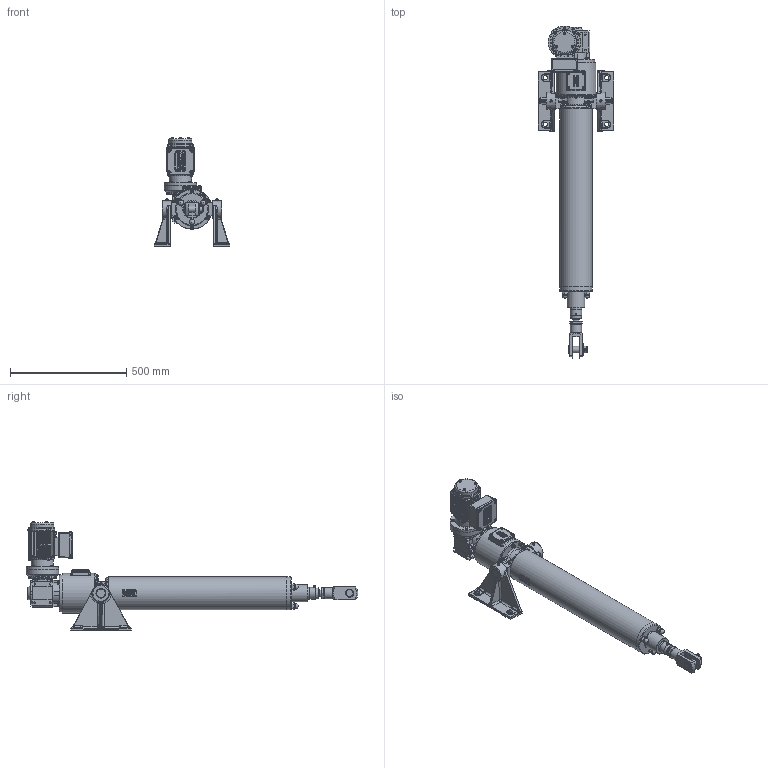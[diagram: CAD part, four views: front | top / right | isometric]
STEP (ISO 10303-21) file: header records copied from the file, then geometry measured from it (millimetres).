
FILE_DESCRIPTION(/* description */ ('Unknown'),/* implementation_level */ '2;1');
FILE_NAME(/* name */ 'T1T6-0600-160-226-8',/* time_stamp */ '2025-07-21T10:24:46+02:00',/* author */ ('Unknown'),/* organization */ ('Unknown'),/* preprocessor_version */ 'ST-DEVELOPER v19.4',/* originating_system */ 'Solid Edge',/* authorisation */ 'Unknown');
FILE_SCHEMA (('AUTOMOTIVE_DESIGN {1 0 10303 214 3 1 1}'));
Length unit declared in the file: millimetre
Products named in the file (15): 160-226-8; 03.01-06_oohne Anschlagkappe; 02.14-06-0600; 02.01-06_kpl; 01.15-06-0600_ohne Anschlagkappe; 01.74-06_ohne Anschlagkappe; SK1SI50-IEC71C140; 01.01-06_kpl_Gabelkopf; 03.65-06_kpl; 04.01-05-7-140; 10.02-04-08; AM6-100-183-3; 63-B5; 10.20-04-11; Klemmenkasten
Assembly tree (14 placements, depth 2):
  160-226-8
    03.01-06_oohne Anschlagkappe
    02.14-06-0600
    02.01-06_kpl
    01.15-06-0600_ohne Anschlagkappe
    01.74-06_ohne Anschlagkappe
    SK1SI50-IEC71C140
    01.01-06_kpl_Gabelkopf
    03.65-06_kpl
    04.01-05-7-140
    10.02-04-08
    AM6-100-183-3
    63-B5
    10.20-04-11
    Klemmenkasten
Bounding box: 325 x 1428 x 468.5 mm (x, y, z)
Volume: 23182611.3 mm3; surface area: 1596878.4 mm2
Topology: 20 solids, 33 shells, 3302 faces, 8677 edges, 5414 vertices
Faces by surface type: plane 1580, cylinder 971, torus 259, bspline 229, cone 212, sphere 51
Full cylindrical faces by diameter (mm): 1 x41, 2 x1, 4 x7, 4.917 x1, 5.3 x4, 5.7 x3, 6 x1, 6.4 x2, 6.647 x1, 7 x6, 8 x13, 8.15 x1, 8.2 x1, 8.4 x6, 8.5 x3, 8.566 x1, 9.15 x3, 10 x7, 11.6 x1, 12 x2, 12.5 x2, 12.8 x1, 13 x2, 16 x7, 17 x6, 18 x5, 20 x1, 22.5 x3, 24 x1, 24.6 x3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
Entity records: 126714 total; most frequent: CARTESIAN_POINT 26281, ORIENTED_EDGE 16284, DIRECTION 16152, EDGE_CURVE 8142, AXIS2_PLACEMENT_3D 6144, VERTEX_POINT 5267, FACE_BOUND 3867, LINE 3864
